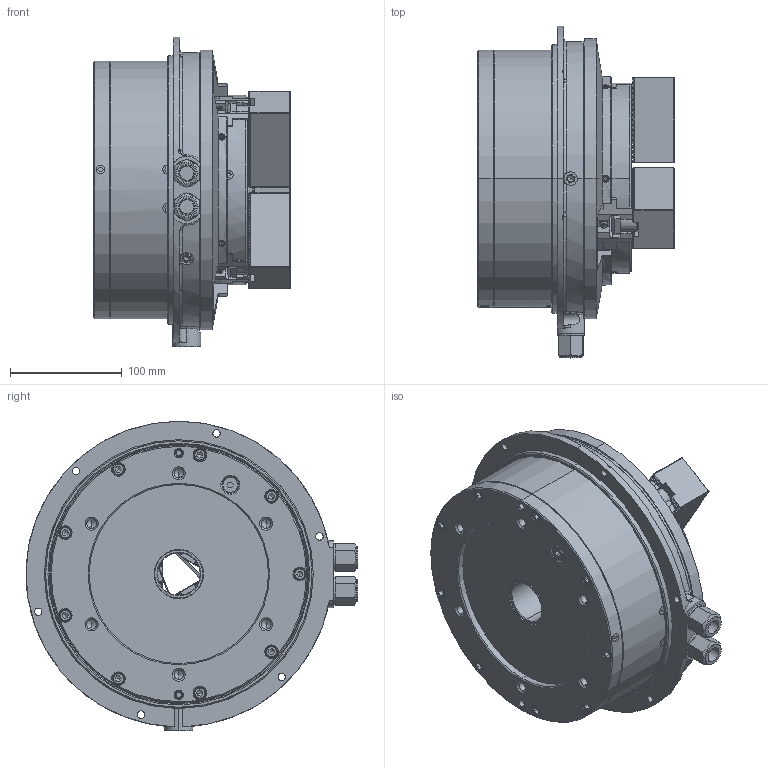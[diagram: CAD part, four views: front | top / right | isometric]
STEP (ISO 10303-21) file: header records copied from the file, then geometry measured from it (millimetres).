
FILE_DESCRIPTION (( 'STEP AP214' ), '1' );
FILE_NAME ('DEV-UVE160K-HCL.STEP', '2024-10-02T07:32:43', ( '' ), ( '' ), 'SwSTEP 2.0', 'SolidWorks 2022', '' );
FILE_SCHEMA (( 'AUTOMOTIVE_DESIGN' ));
Length unit declared in the file: millimetre
Products named in the file (6): Copy of 0030112030^DEV-UVE160K-クミタテ; Copy of 61P853952^DEV-UVE160K-クミタテ; Part2^DEV-UVE160K-クミタテ; Copy of 0693000003^DEV-UVE160K-クミタテ; Copy of 61P401345^DEV-UVE160K-クミタテ; DEV-UVE160K-HCL
Assembly tree (18 placements, depth 2):
  DEV-UVE160K-HCL
    Copy of 61P853952^DEV-UVE160K-クミタテ  x3
    Copy of 61P401345^DEV-UVE160K-クミタテ  x6
    Copy of 0030112030^DEV-UVE160K-クミタテ  x6
    Copy of 0693000003^DEV-UVE160K-クミタテ  x2
    Part2^DEV-UVE160K-クミタテ
Bounding box: 175.45 x 296.49 x 276.5 mm (x, y, z)
Volume: 339136.3 mm3; surface area: 416120.4 mm2
Topology: 46 solids, 47 shells, 4914 faces, 13546 edges, 8798 vertices
Faces by surface type: plane 2826, cylinder 1272, cone 473, bspline 272, torus 51, sphere 20
Entity records: 128691 total; most frequent: CARTESIAN_POINT 40370, ORIENTED_EDGE 19978, DIRECTION 16032, EDGE_CURVE 9989, VERTEX_POINT 6538, LINE 6522, VECTOR 6522, AXIS2_PLACEMENT_3D 4755
